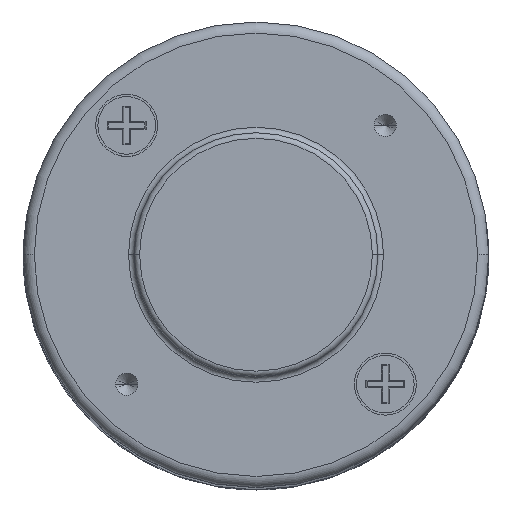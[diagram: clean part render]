
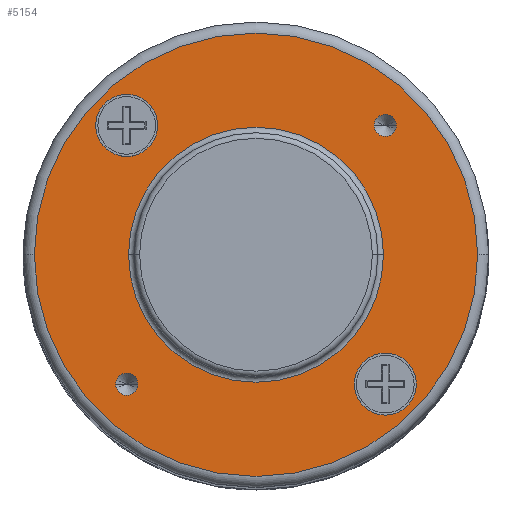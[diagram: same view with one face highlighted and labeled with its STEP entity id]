
A CAD part, top view. The second image highlights one B-rep face of the part: STEP entity #5154.
In plain terms, the highlighted planar face has unit normal (0, 0, 1).
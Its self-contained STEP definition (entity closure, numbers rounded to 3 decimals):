
#141 = DIRECTION ( 'NONE',  ( 1., 0., 0. ) ) ;
#190 = EDGE_CURVE ( 'NONE', #1096, #1522, #2614, .T. ) ;
#192 = CARTESIAN_POINT ( 'NONE',  ( -11.5, 0., 5.1 ) ) ;
#198 = EDGE_CURVE ( 'NONE', #3926, #5386, #3979, .T. ) ;
#257 = DIRECTION ( 'NONE',  ( 1., 0., 0. ) ) ;
#259 = ORIENTED_EDGE ( 'NONE', *, *, #5653, .T. ) ;
#290 = ORIENTED_EDGE ( 'NONE', *, *, #5578, .T. ) ;
#311 = CIRCLE ( 'NONE', #4602, 1. ) ;
#316 = FACE_OUTER_BOUND ( 'NONE', #2532, .T. ) ;
#377 = ORIENTED_EDGE ( 'NONE', *, *, #1452, .F. ) ;
#403 = DIRECTION ( 'NONE',  ( 0., 0., 1. ) ) ;
#480 = CARTESIAN_POINT ( 'NONE',  ( 0., 0., 5.1 ) ) ;
#515 = CARTESIAN_POINT ( 'NONE',  ( 0., 0., 5.1 ) ) ;
#552 = EDGE_LOOP ( 'NONE', ( #2754, #6244 ) ) ;
#662 = CARTESIAN_POINT ( 'NONE',  ( 8.867, -11.667, 5.1 ) ) ;
#674 = EDGE_CURVE ( 'NONE', #2203, #1822, #3113, .T. ) ;
#696 = DIRECTION ( 'NONE',  ( 0., 0., 1. ) ) ;
#752 = CIRCLE ( 'NONE', #4403, 2.8 ) ;
#904 = DIRECTION ( 'NONE',  ( 1., 0., 0. ) ) ;
#955 = CARTESIAN_POINT ( 'NONE',  ( -11.667, 11.667, 5.1 ) ) ;
#1096 = VERTEX_POINT ( 'NONE', #3917 ) ;
#1104 = EDGE_CURVE ( 'NONE', #4997, #3211, #5550, .T. ) ;
#1130 = EDGE_LOOP ( 'NONE', ( #259, #4703 ) ) ;
#1193 = DIRECTION ( 'NONE',  ( 1., 0., 0. ) ) ;
#1252 = DIRECTION ( 'NONE',  ( 0., 0., 1. ) ) ;
#1328 = FACE_BOUND ( 'NONE', #1130, .T. ) ;
#1363 = CARTESIAN_POINT ( 'NONE',  ( 11.667, 11.667, 5.1 ) ) ;
#1383 = CARTESIAN_POINT ( 'NONE',  ( 11.667, -11.667, 5.1 ) ) ;
#1395 = DIRECTION ( 'NONE',  ( 0., 0., -1. ) ) ;
#1399 = DIRECTION ( 'NONE',  ( 0., 0., 1. ) ) ;
#1431 = CARTESIAN_POINT ( 'NONE',  ( -12.667, -11.667, 5.1 ) ) ;
#1452 = EDGE_CURVE ( 'NONE', #5386, #3926, #311, .T. ) ;
#1504 = CARTESIAN_POINT ( 'NONE',  ( 12.667, 11.667, 5.1 ) ) ;
#1522 = VERTEX_POINT ( 'NONE', #2085 ) ;
#1595 = EDGE_CURVE ( 'NONE', #5839, #2016, #2287, .T. ) ;
#1663 = AXIS2_PLACEMENT_3D ( 'NONE', #4290, #6319, #1803 ) ;
#1691 = CARTESIAN_POINT ( 'NONE',  ( 10.667, 11.667, 5.1 ) ) ;
#1707 = PLANE ( 'NONE',  #4555 ) ;
#1782 = CARTESIAN_POINT ( 'NONE',  ( 11.5, 0., 5.1 ) ) ;
#1803 = DIRECTION ( 'NONE',  ( 1., 0., 0. ) ) ;
#1822 = VERTEX_POINT ( 'NONE', #1782 ) ;
#1885 = AXIS2_PLACEMENT_3D ( 'NONE', #5949, #4325, #3952 ) ;
#2016 = VERTEX_POINT ( 'NONE', #4365 ) ;
#2067 = EDGE_CURVE ( 'NONE', #5058, #3401, #5776, .T. ) ;
#2085 = CARTESIAN_POINT ( 'NONE',  ( -8.867, 11.667, 5.1 ) ) ;
#2203 = VERTEX_POINT ( 'NONE', #192 ) ;
#2287 = CIRCLE ( 'NONE', #3129, 20. ) ;
#2304 = DIRECTION ( 'NONE',  ( 0., 0., 1. ) ) ;
#2331 = CARTESIAN_POINT ( 'NONE',  ( 14.467, -11.667, 5.1 ) ) ;
#2377 = DIRECTION ( 'NONE',  ( 1., 0., 0. ) ) ;
#2403 = EDGE_LOOP ( 'NONE', ( #6162, #5377 ) ) ;
#2436 = DIRECTION ( 'NONE',  ( 0., 0., 1. ) ) ;
#2532 = EDGE_LOOP ( 'NONE', ( #290, #4178 ) ) ;
#2614 = CIRCLE ( 'NONE', #2826, 2.8 ) ;
#2646 = FACE_BOUND ( 'NONE', #5140, .T. ) ;
#2681 = DIRECTION ( 'NONE',  ( 1., 0., 0. ) ) ;
#2748 = EDGE_CURVE ( 'NONE', #3401, #5058, #752, .T. ) ;
#2754 = ORIENTED_EDGE ( 'NONE', *, *, #4385, .F. ) ;
#2826 = AXIS2_PLACEMENT_3D ( 'NONE', #955, #2436, #2377 ) ;
#3113 = CIRCLE ( 'NONE', #4590, 11.5 ) ;
#3129 = AXIS2_PLACEMENT_3D ( 'NONE', #515, #3977, #6012 ) ;
#3171 = EDGE_LOOP ( 'NONE', ( #5685, #377 ) ) ;
#3175 = FACE_BOUND ( 'NONE', #3171, .T. ) ;
#3211 = VERTEX_POINT ( 'NONE', #6087 ) ;
#3401 = VERTEX_POINT ( 'NONE', #662 ) ;
#3554 = ORIENTED_EDGE ( 'NONE', *, *, #2748, .F. ) ;
#3880 = CARTESIAN_POINT ( 'NONE',  ( 0., 0., 5.1 ) ) ;
#3917 = CARTESIAN_POINT ( 'NONE',  ( -14.467, 11.667, 5.1 ) ) ;
#3926 = VERTEX_POINT ( 'NONE', #1504 ) ;
#3952 = DIRECTION ( 'NONE',  ( 1., 0., 0. ) ) ;
#3977 = DIRECTION ( 'NONE',  ( 0., 0., 1. ) ) ;
#3979 = CIRCLE ( 'NONE', #1885, 1. ) ;
#4065 = AXIS2_PLACEMENT_3D ( 'NONE', #4858, #1399, #5294 ) ;
#4093 = DIRECTION ( 'NONE',  ( 0., 0., 1. ) ) ;
#4178 = ORIENTED_EDGE ( 'NONE', *, *, #1595, .T. ) ;
#4290 = CARTESIAN_POINT ( 'NONE',  ( -11.667, -11.667, 5.1 ) ) ;
#4311 = FACE_BOUND ( 'NONE', #2403, .T. ) ;
#4325 = DIRECTION ( 'NONE',  ( 0., 0., 1. ) ) ;
#4365 = CARTESIAN_POINT ( 'NONE',  ( 20., 0., 5.1 ) ) ;
#4377 = CIRCLE ( 'NONE', #5025, 1. ) ;
#4379 = AXIS2_PLACEMENT_3D ( 'NONE', #4632, #1252, #1193 ) ;
#4385 = EDGE_CURVE ( 'NONE', #1522, #1096, #5979, .T. ) ;
#4394 = ORIENTED_EDGE ( 'NONE', *, *, #2067, .F. ) ;
#4399 = DIRECTION ( 'NONE',  ( -1., 0., 0. ) ) ;
#4403 = AXIS2_PLACEMENT_3D ( 'NONE', #4688, #4093, #5096 ) ;
#4549 = DIRECTION ( 'NONE',  ( 1., 0., 0. ) ) ;
#4555 = AXIS2_PLACEMENT_3D ( 'NONE', #4655, #2304, #141 ) ;
#4590 = AXIS2_PLACEMENT_3D ( 'NONE', #3880, #1395, #257 ) ;
#4593 = CIRCLE ( 'NONE', #4065, 20. ) ;
#4602 = AXIS2_PLACEMENT_3D ( 'NONE', #1363, #5318, #904 ) ;
#4624 = FACE_BOUND ( 'NONE', #552, .T. ) ;
#4632 = CARTESIAN_POINT ( 'NONE',  ( -11.667, 11.667, 5.1 ) ) ;
#4655 = CARTESIAN_POINT ( 'NONE',  ( 0., 0., 5.1 ) ) ;
#4688 = CARTESIAN_POINT ( 'NONE',  ( 11.667, -11.667, 5.1 ) ) ;
#4703 = ORIENTED_EDGE ( 'NONE', *, *, #674, .T. ) ;
#4858 = CARTESIAN_POINT ( 'NONE',  ( 0., 0., 5.1 ) ) ;
#4908 = AXIS2_PLACEMENT_3D ( 'NONE', #480, #5454, #4549 ) ;
#4997 = VERTEX_POINT ( 'NONE', #1431 ) ;
#5025 = AXIS2_PLACEMENT_3D ( 'NONE', #5201, #696, #2681 ) ;
#5058 = VERTEX_POINT ( 'NONE', #2331 ) ;
#5096 = DIRECTION ( 'NONE',  ( -1., 0., 0. ) ) ;
#5140 = EDGE_LOOP ( 'NONE', ( #4394, #3554 ) ) ;
#5154 = ADVANCED_FACE ( 'NONE', ( #4311, #3175, #2646, #4624, #316, #1328 ), #1707, .T. ) ;
#5201 = CARTESIAN_POINT ( 'NONE',  ( -11.667, -11.667, 5.1 ) ) ;
#5294 = DIRECTION ( 'NONE',  ( 1., 0., 0. ) ) ;
#5318 = DIRECTION ( 'NONE',  ( 0., 0., 1. ) ) ;
#5377 = ORIENTED_EDGE ( 'NONE', *, *, #1104, .F. ) ;
#5386 = VERTEX_POINT ( 'NONE', #1691 ) ;
#5434 = CIRCLE ( 'NONE', #4908, 11.5 ) ;
#5454 = DIRECTION ( 'NONE',  ( 0., 0., -1. ) ) ;
#5550 = CIRCLE ( 'NONE', #1663, 1. ) ;
#5578 = EDGE_CURVE ( 'NONE', #2016, #5839, #4593, .T. ) ;
#5653 = EDGE_CURVE ( 'NONE', #1822, #2203, #5434, .T. ) ;
#5685 = ORIENTED_EDGE ( 'NONE', *, *, #198, .F. ) ;
#5776 = CIRCLE ( 'NONE', #6308, 2.8 ) ;
#5839 = VERTEX_POINT ( 'NONE', #6114 ) ;
#5949 = CARTESIAN_POINT ( 'NONE',  ( 11.667, 11.667, 5.1 ) ) ;
#5979 = CIRCLE ( 'NONE', #4379, 2.8 ) ;
#6012 = DIRECTION ( 'NONE',  ( 1., 0., 0. ) ) ;
#6087 = CARTESIAN_POINT ( 'NONE',  ( -10.667, -11.667, 5.1 ) ) ;
#6114 = CARTESIAN_POINT ( 'NONE',  ( -20., 0., 5.1 ) ) ;
#6162 = ORIENTED_EDGE ( 'NONE', *, *, #6490, .F. ) ;
#6244 = ORIENTED_EDGE ( 'NONE', *, *, #190, .F. ) ;
#6308 = AXIS2_PLACEMENT_3D ( 'NONE', #1383, #403, #4399 ) ;
#6319 = DIRECTION ( 'NONE',  ( 0., 0., 1. ) ) ;
#6490 = EDGE_CURVE ( 'NONE', #3211, #4997, #4377, .T. ) ;
